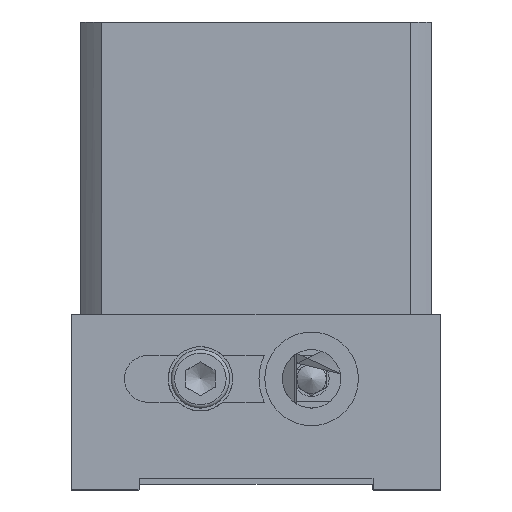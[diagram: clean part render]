
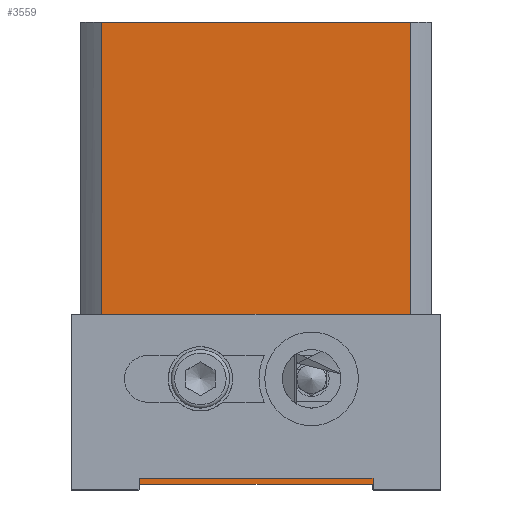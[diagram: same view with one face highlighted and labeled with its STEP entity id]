
A CAD part, left-side view. The second image highlights one B-rep face of the part: STEP entity #3559.
In plain terms, the highlighted planar face has unit normal (-1, 0, 0).
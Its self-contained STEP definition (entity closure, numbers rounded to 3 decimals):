
#1875=CARTESIAN_POINT('',(-30.,20.5,-53.));
#1876=VERTEX_POINT('',#1875);
#1877=CARTESIAN_POINT('',(-30.,20.5,-61.));
#1878=DIRECTION('',(-1.0,0.0,0.0));
#1879=DIRECTION('',(0.0,-1.0,0.0));
#1880=AXIS2_PLACEMENT_3D('',#1877,#1878,#1879);
#1881=CIRCLE('',#1880,8.0);
#1882=EDGE_CURVE('',#1876,#1876,#1881,.T.);
#2190=CARTESIAN_POINT('',(-30.,39.5,-53.));
#2191=VERTEX_POINT('',#2190);
#2192=CARTESIAN_POINT('',(-30.,39.5,-61.));
#2193=DIRECTION('',(-1.0,0.0,0.0));
#2194=DIRECTION('',(0.0,1.0,0.0));
#2195=AXIS2_PLACEMENT_3D('',#2192,#2193,#2194);
#2196=CIRCLE('',#2195,8.0);
#2197=EDGE_CURVE('',#2191,#2191,#2196,.T.);
#3498=CARTESIAN_POINT('',(-30.,56.458,0.0));
#3499=DIRECTION('',(-1.0,0.0,0.0));
#3500=DIRECTION('',(0.0,0.0,1.0));
#3501=AXIS2_PLACEMENT_3D('',#3498,#3499,#3500);
#3502=PLANE('',#3501);
#3503=CARTESIAN_POINT('',(-30.,3.542,0.0));
#3504=VERTEX_POINT('',#3503);
#3505=CARTESIAN_POINT('',(-30.,3.542,-76.542));
#3506=VERTEX_POINT('',#3505);
#3507=CARTESIAN_POINT('',(-30.,3.542,0.0));
#3508=DIRECTION('',(0.0,0.0,-1.0));
#3509=VECTOR('',#3508,76.542);
#3510=LINE('',#3507,#3509);
#3511=EDGE_CURVE('',#3504,#3506,#3510,.T.);
#3512=ORIENTED_EDGE('',*,*,#3511,.F.);
#3513=CARTESIAN_POINT('',(-30.,56.458,0.0));
#3514=VERTEX_POINT('',#3513);
#3515=CARTESIAN_POINT('',(-30.0,56.458,0.0));
#3516=DIRECTION('',(0.0,-1.0,0.0));
#3517=VECTOR('',#3516,52.915);
#3518=LINE('',#3515,#3517);
#3519=EDGE_CURVE('',#3514,#3504,#3518,.T.);
#3520=ORIENTED_EDGE('',*,*,#3519,.F.);
#3521=CARTESIAN_POINT('',(-30.,56.458,-76.542));
#3522=VERTEX_POINT('',#3521);
#3523=CARTESIAN_POINT('',(-30.,56.458,0.0));
#3524=DIRECTION('',(0.0,0.0,-1.0));
#3525=VECTOR('',#3524,76.542);
#3526=LINE('',#3523,#3525);
#3527=EDGE_CURVE('',#3514,#3522,#3526,.T.);
#3528=ORIENTED_EDGE('',*,*,#3527,.T.);
#3529=CARTESIAN_POINT('',(-30.,54.,-79.0));
#3530=VERTEX_POINT('',#3529);
#3531=CARTESIAN_POINT('',(-30.,54.0,-79.0));
#3532=DIRECTION('',(0.0,0.707,0.707));
#3533=VECTOR('',#3532,3.475);
#3534=LINE('',#3531,#3533);
#3535=EDGE_CURVE('',#3530,#3522,#3534,.T.);
#3536=ORIENTED_EDGE('',*,*,#3535,.F.);
#3537=CARTESIAN_POINT('',(-30.,6.,-79.0));
#3538=VERTEX_POINT('',#3537);
#3539=CARTESIAN_POINT('',(-30.,54.0,-79.0));
#3540=DIRECTION('',(0.0,-1.0,0.0));
#3541=VECTOR('',#3540,48.0);
#3542=LINE('',#3539,#3541);
#3543=EDGE_CURVE('',#3530,#3538,#3542,.T.);
#3544=ORIENTED_EDGE('',*,*,#3543,.T.);
#3545=CARTESIAN_POINT('',(-30.,3.542,-76.542));
#3546=DIRECTION('',(0.0,0.707,-0.707));
#3547=VECTOR('',#3546,3.475);
#3548=LINE('',#3545,#3547);
#3549=EDGE_CURVE('',#3506,#3538,#3548,.T.);
#3550=ORIENTED_EDGE('',*,*,#3549,.F.);
#3551=EDGE_LOOP('',(#3512,#3520,#3528,#3536,#3544,#3550));
#3552=FACE_OUTER_BOUND('',#3551,.T.);
#3553=ORIENTED_EDGE('',*,*,#2197,.F.);
#3554=EDGE_LOOP('',(#3553));
#3555=FACE_BOUND('',#3554,.T.);
#3556=ORIENTED_EDGE('',*,*,#1882,.F.);
#3557=EDGE_LOOP('',(#3556));
#3558=FACE_BOUND('',#3557,.T.);
#3559=ADVANCED_FACE('',(#3552,#3555,#3558),#3502,.T.);
